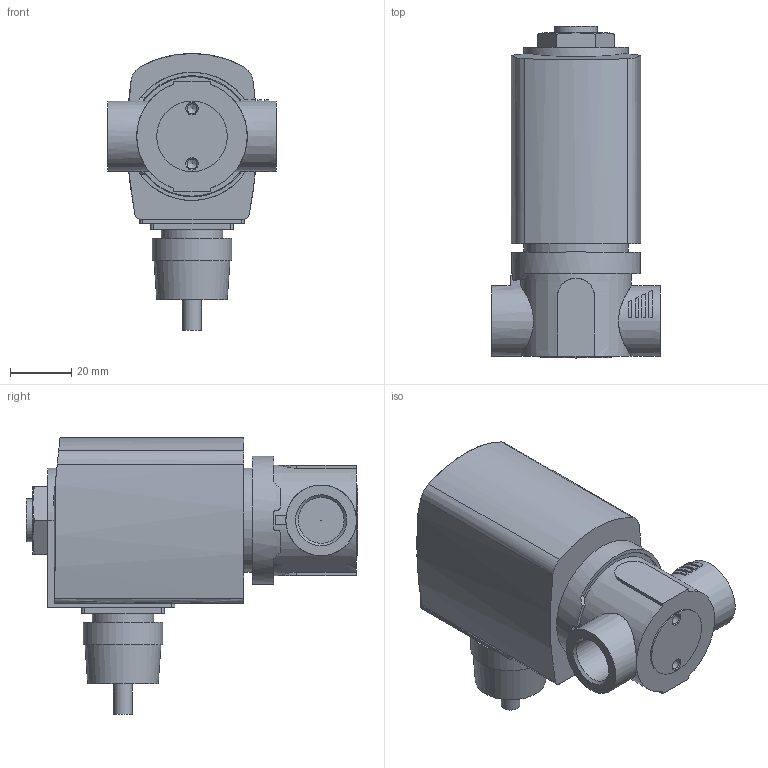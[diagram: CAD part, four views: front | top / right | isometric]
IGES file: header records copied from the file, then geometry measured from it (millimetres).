
Start section: Data from Parasolid IGES Translator 26.0.171, Copyright(c) 2006 Siemens PLM Software. All Rights Reserved.
Global section: file name: 6027-A-3-PTFE___FKM-VA-G_3_8-42-024___UC.igs; native system: By Siemens PLM Incorporated; preprocessor: XPlus GENERIC/IGES 26.0.171; author: Noname; organization: Noname; date: 20240322.205959; units: millimetre
Bounding box: 55 x 108.2 x 90.3 mm (x, y, z)
Surface area: 29810.1 mm2 (no closed solid volume)
Topology: 0 solids, 0 shells, 129 faces, 638 edges, 618 vertices
Faces by surface type: extrusion 71, revolution 58
